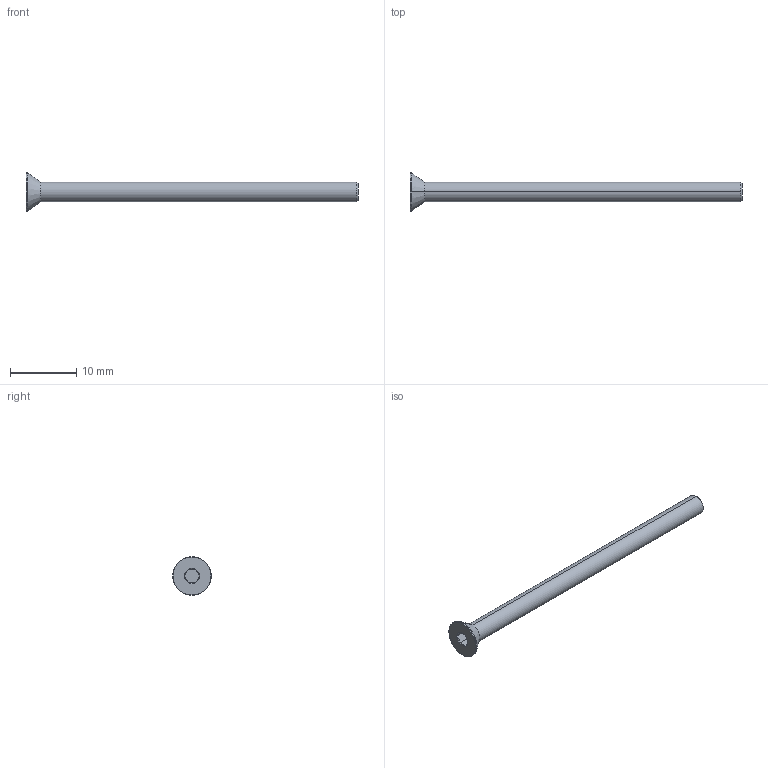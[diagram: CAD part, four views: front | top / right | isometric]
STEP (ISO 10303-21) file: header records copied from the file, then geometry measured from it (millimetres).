
FILE_DESCRIPTION (( 'STEP AP203' ), '1' );
FILE_NAME ('LGDB-304-M3x50.STEP', '2026-08-10T14:06:13', ( '' ), ( '' ), 'SwSTEP 2.0', 'SolidWorks 2020', '' );
FILE_SCHEMA (( 'CONFIG_CONTROL_DESIGN' ));
Length unit declared in the file: millimetre
Products named in the file (1): LGDB-304-M3x50
Bounding box: 50 x 5.8 x 5.8 mm (x, y, z)
Volume: 369.2 mm3; surface area: 529.8 mm2
Topology: 1 solids, 1 shells, 28 faces, 53 edges, 28 vertices
Faces by surface type: cone 11, plane 9, torus 4, cylinder 4
Entity records: 780 total; most frequent: CARTESIAN_POINT 141, DIRECTION 129, ORIENTED_EDGE 106, AXIS2_PLACEMENT_3D 54, EDGE_CURVE 53, EDGE_LOOP 29, VERTEX_POINT 28, ADVANCED_FACE 28
